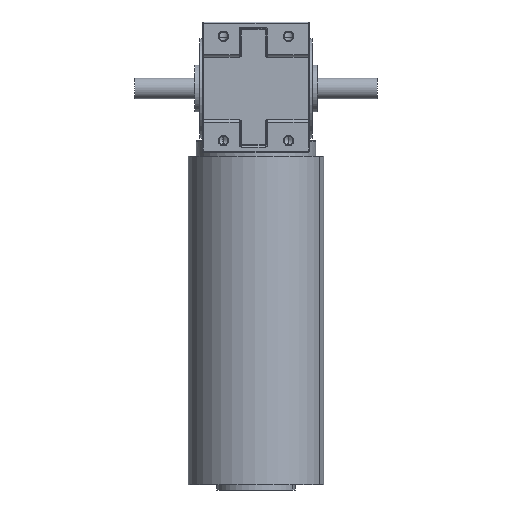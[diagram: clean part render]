
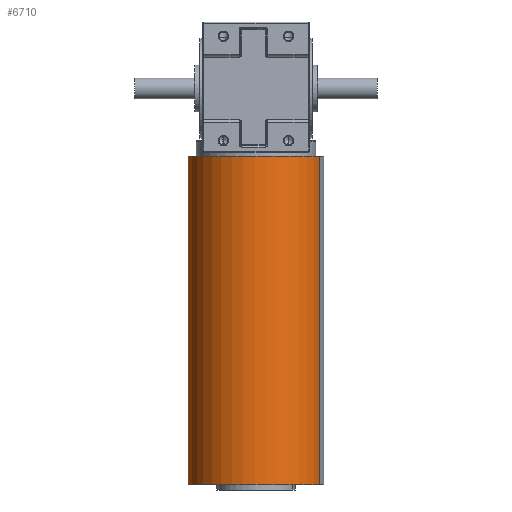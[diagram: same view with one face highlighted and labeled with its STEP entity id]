
A CAD part, front view. The second image highlights one B-rep face of the part: STEP entity #6710.
In plain terms, the highlighted cylindrical face has radius 26 mm (diameter 52 mm), a partial arc.
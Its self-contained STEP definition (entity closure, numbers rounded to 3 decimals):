
#6705 = EDGE_CURVE ( 'NONE', #6720, #6719, #11544, .T. ) ;
#6710 = ADVANCED_FACE ( 'NONE', ( #11534 ), #11533, .T. ) ;
#6711 = EDGE_LOOP ( 'NONE', ( #6712, #6713, #6714, #6715 ) ) ;
#6712 = ORIENTED_EDGE ( 'NONE', *, *, #6722, .F. ) ;
#6713 = ORIENTED_EDGE ( 'NONE', *, *, #6705, .T. ) ;
#6714 = ORIENTED_EDGE ( 'NONE', *, *, #6729, .T. ) ;
#6715 = ORIENTED_EDGE ( 'NONE', *, *, #6766, .F. ) ;
#6719 = VERTEX_POINT ( 'NONE', #11584 ) ;
#6720 = VERTEX_POINT ( 'NONE', #11583 ) ;
#6722 = EDGE_CURVE ( 'NONE', #6720, #6723, #11582, .T. ) ;
#6723 = VERTEX_POINT ( 'NONE', #11578 ) ;
#6724 = VERTEX_POINT ( 'NONE', #11577 ) ;
#6729 = EDGE_CURVE ( 'NONE', #6719, #6724, #11576, .T. ) ;
#6766 = EDGE_CURVE ( 'NONE', #6723, #6724, #11652, .T. ) ;
#11527 = DIRECTION ( 'NONE',  ( 1., 0., 0. ) ) ;
#11528 = DIRECTION ( 'NONE',  ( 0., 0., 1. ) ) ;
#11529 = CARTESIAN_POINT ( 'NONE',  ( 0.83, 0.83, -126. ) ) ;
#11530 = AXIS2_PLACEMENT_3D ( 'NONE', #11529, #11528, #11527 ) ;
#11533 = CYLINDRICAL_SURFACE ( 'NONE', #11530, 26. ) ;
#11534 = FACE_OUTER_BOUND ( 'NONE', #6711, .T. ) ;
#11540 = DIRECTION ( 'NONE',  ( 1., 0., 0. ) ) ;
#11541 = DIRECTION ( 'NONE',  ( 0., 0., 1. ) ) ;
#11542 = CARTESIAN_POINT ( 'NONE',  ( 0.83, 0.83, -126. ) ) ;
#11543 = AXIS2_PLACEMENT_3D ( 'NONE', #11542, #11541, #11540 ) ;
#11544 = CIRCLE ( 'NONE', #11543, 26. ) ;
#11568 = DIRECTION ( 'NONE',  ( 0., 0., 1. ) ) ;
#11569 = VECTOR ( 'NONE', #11568, 1000. ) ;
#11570 = CARTESIAN_POINT ( 'NONE',  ( 26.83, 0.83, -126. ) ) ;
#11576 = LINE ( 'NONE', #11570, #11569 ) ;
#11577 = CARTESIAN_POINT ( 'NONE',  ( 26.83, 0.83, 0. ) ) ;
#11578 = CARTESIAN_POINT ( 'NONE',  ( -25.17, 0.83, 0. ) ) ;
#11579 = DIRECTION ( 'NONE',  ( 0., 0., 1. ) ) ;
#11580 = VECTOR ( 'NONE', #11579, 1000. ) ;
#11581 = CARTESIAN_POINT ( 'NONE',  ( -25.17, 0.83, -126. ) ) ;
#11582 = LINE ( 'NONE', #11581, #11580 ) ;
#11583 = CARTESIAN_POINT ( 'NONE',  ( -25.17, 0.83, -126. ) ) ;
#11584 = CARTESIAN_POINT ( 'NONE',  ( 26.83, 0.83, -126. ) ) ;
#11648 = DIRECTION ( 'NONE',  ( 1., 0., 0. ) ) ;
#11649 = DIRECTION ( 'NONE',  ( 0., 0., 1. ) ) ;
#11650 = CARTESIAN_POINT ( 'NONE',  ( 0.83, 0.83, 0. ) ) ;
#11651 = AXIS2_PLACEMENT_3D ( 'NONE', #11650, #11649, #11648 ) ;
#11652 = CIRCLE ( 'NONE', #11651, 26. ) ;
